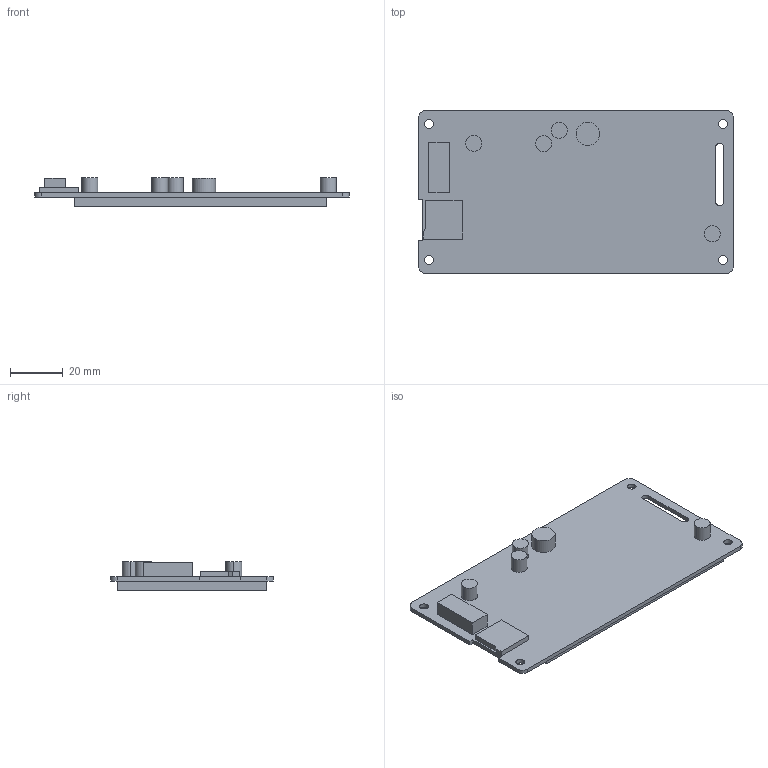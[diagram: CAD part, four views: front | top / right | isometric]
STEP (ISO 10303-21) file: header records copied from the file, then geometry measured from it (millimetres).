
FILE_DESCRIPTION((''),'2;1');
FILE_NAME('DMG80480T040-01WN-WTR','2022-04-20T',('Administrator'),(''),'PRO/ENGINEER BY PARAMETRIC TECHNOLOGY CORPORATION, 2008380','PRO/ENGINEER BY PARAMETRIC TECHNOLOGY CORPORATION, 2008380','');
FILE_SCHEMA(('CONFIG_CONTROL_DESIGN'));
Length unit declared in the file: millimetre
Products named in the file (1): DMG80480T040-01WN-WTR
Bounding box: 119.51 x 61.85 x 11 mm (x, y, z)
Volume: 31582.5 mm3; surface area: 17458 mm2
Topology: 1 solids, 1 shells, 63 faces, 11305 edges, 18491 vertices
Faces by surface type: plane 39, cylinder 24
Entity records: 61647 total; most frequent: DIRECTION 15428, CARTESIAN_POINT 11473, TRIMMED_CURVE 11149, VECTOR 7310, LINE 7310, AXIS2_PLACEMENT_3D 4059, CIRCLE 3995, ORIENTED_EDGE 312
